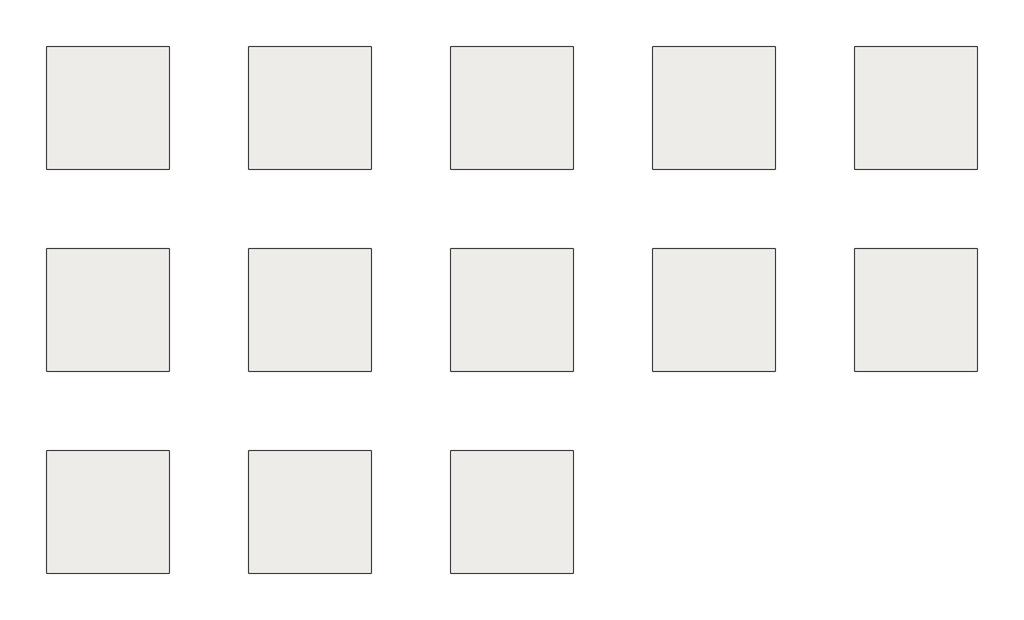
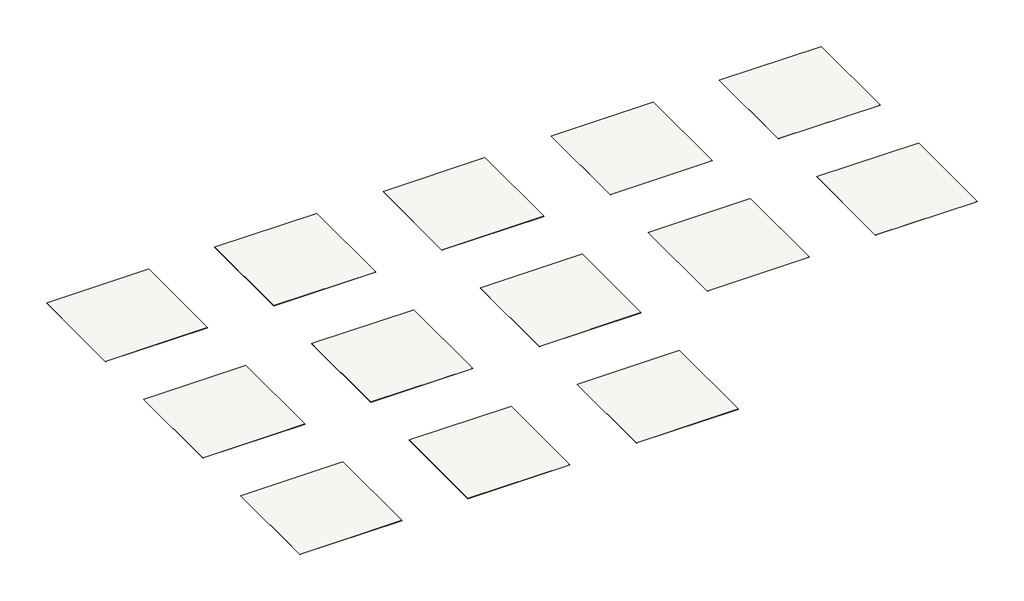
# One storey: 13 slabs.
"""IFC4 building model written with IfcOpenShell, lengths in millimetres."""

from ifc_helpers import new_model, si_unit, frame, origin, place, context, project, spatial, polyline, outline, extrude, element, save

model = new_model("IFC4")

# Units and contexts
model_context = context("Model", 3, world=origin())
ifc_project = project(units=[si_unit("LENGTHUNIT", "METRE", prefix="MILLI")], contexts=[model_context])

# Site, building, storey
site = spatial("IfcSite", under=ifc_project)
building = spatial("IfcBuilding", under=site)
storey = spatial("IfcBuildingStorey", under=building, Name="Tarkett Brasil - Ambienta Design", Elevation=0.0)

# Slabs
placement = place(None, origin())
element("IfcSlab", 1, ObjectType="Tarkett Brasil - Vinyl - Ambienta Design - Acero 24273619", at=placement, inside=storey, context=model_context, shape_type="SweptSolid", body=[
    extrude(outline(polyline([(-2685.8748009, 4089.6111976), (-2685.8748009, 2089.6111976), (-4685.8748009, 2089.6111976), (-4685.8748009, 4089.6111976), (-2685.8748009, 4089.6111976)])), frame((0.0, 0.0, -3.0), z_axis=(0.0, 0.0, 1.0), x_axis=(1.0, 0.0, 0.0)), (0.0, 0.0, 1.0), 3.0),
])
element("IfcSlab", 2, ObjectType="Tarkett Brasil - Vinyl - Ambienta Design - Tamara 24192731", at=placement, inside=storey, context=model_context, shape_type="SweptSolid", body=[
    extrude(outline(polyline([(614.1251991, 4089.6111976), (614.1251991, 2089.6111976), (-1385.8748009, 2089.6111976), (-1385.8748009, 4089.6111976), (614.1251991, 4089.6111976)])), frame((0.0, 0.0, -3.0), z_axis=(0.0, 0.0, 1.0), x_axis=(1.0, 0.0, 0.0)), (0.0, 0.0, 1.0), 3.0),
])
element("IfcSlab", 3, ObjectType="Tarkett Brasil - Vinyl - Ambienta Design - Amaranto 24192688", at=placement, inside=storey, context=model_context, shape_type="SweptSolid", body=[
    extrude(outline(polyline([(3914.1251991, 4089.6111976), (3914.1251991, 2089.6111976), (1914.1251991, 2089.6111976), (1914.1251991, 4089.6111976), (3914.1251991, 4089.6111976)])), frame((0.0, 0.0, -3.0), z_axis=(0.0, 0.0, 1.0), x_axis=(1.0, 0.0, 0.0)), (0.0, 0.0, 1.0), 3.0),
])
element("IfcSlab", 4, ObjectType="Tarkett Brasil - Vinyl - Ambienta Design - Andorra 24273612", at=placement, inside=storey, context=model_context, shape_type="SweptSolid", body=[
    extrude(outline(polyline([(7214.1251991, 4089.6111976), (7214.1251991, 2089.6111976), (5214.1251991, 2089.6111976), (5214.1251991, 4089.6111976), (7214.1251991, 4089.6111976)])), frame((0.0, 0.0, -3.0), z_axis=(0.0, 0.0, 1.0), x_axis=(1.0, 0.0, 0.0)), (0.0, 0.0, 1.0), 3.0),
])
element("IfcSlab", 5, ObjectType="Tarkett Brasil - Vinyl - Ambienta Design - Aragon 24273616", at=placement, inside=storey, context=model_context, shape_type="SweptSolid", body=[
    extrude(outline(polyline([(10514.1251991, 4089.6111976), (10514.1251991, 2089.6111976), (8514.1251991, 2089.6111976), (8514.1251991, 4089.6111976), (10514.1251991, 4089.6111976)])), frame((0.0, 0.0, -3.0), z_axis=(0.0, 0.0, 1.0), x_axis=(1.0, 0.0, 0.0)), (0.0, 0.0, 1.0), 3.0),
])
element("IfcSlab", 6, ObjectType="Tarkett Brasil - Vinyl - Ambienta Design - Brauna 24192685", at=placement, inside=storey, context=model_context, shape_type="SweptSolid", body=[
    extrude(outline(polyline([(-2685.8748009, 789.6111976), (-2685.8748009, -1210.3888024), (-4685.8748009, -1210.3888024), (-4685.8748009, 789.6111976), (-2685.8748009, 789.6111976)])), frame((0.0, 0.0, -3.0), z_axis=(0.0, 0.0, 1.0), x_axis=(1.0, 0.0, 0.0)), (0.0, 0.0, 1.0), 3.0),
])
element("IfcSlab", 7, ObjectType="Tarkett Brasil - Vinyl - Ambienta Design - Copaiba 24192693", at=placement, inside=storey, context=model_context, shape_type="SweptSolid", body=[
    extrude(outline(polyline([(614.1251991, 789.6111976), (614.1251991, -1210.3888024), (-1385.8748009, -1210.3888024), (-1385.8748009, 789.6111976), (614.1251991, 789.6111976)])), frame((0.0, 0.0, -3.0), z_axis=(0.0, 0.0, 1.0), x_axis=(1.0, 0.0, 0.0)), (0.0, 0.0, 1.0), 3.0),
])
element("IfcSlab", 8, ObjectType="Tarkett Brasil - Vinyl - Ambienta Design - Flamboyant 24192695", at=placement, inside=storey, context=model_context, shape_type="SweptSolid", body=[
    extrude(outline(polyline([(3914.1251991, 789.6111976), (3914.1251991, -1210.3888024), (1914.1251991, -1210.3888024), (1914.1251991, 789.6111976), (3914.1251991, 789.6111976)])), frame((0.0, 0.0, -3.0), z_axis=(0.0, 0.0, 1.0), x_axis=(1.0, 0.0, 0.0)), (0.0, 0.0, 1.0), 3.0),
])
element("IfcSlab", 9, ObjectType="Tarkett Brasil - Vinyl - Ambienta Design - Olmo 24192727", at=placement, inside=storey, context=model_context, shape_type="SweptSolid", body=[
    extrude(outline(polyline([(7214.1251991, 789.6111976), (7214.1251991, -1210.3888024), (5214.1251991, -1210.3888024), (5214.1251991, 789.6111976), (7214.1251991, 789.6111976)])), frame((0.0, 0.0, -3.0), z_axis=(0.0, 0.0, 1.0), x_axis=(1.0, 0.0, 0.0)), (0.0, 0.0, 1.0), 3.0),
])
element("IfcSlab", 10, ObjectType="Tarkett Brasil - Vinyl - Ambienta Design - Royalles 24273417", at=placement, inside=storey, context=model_context, shape_type="SweptSolid", body=[
    extrude(outline(polyline([(10514.1251991, 789.6111976), (10514.1251991, -1210.3888024), (8514.1251991, -1210.3888024), (8514.1251991, 789.6111976), (10514.1251991, 789.6111976)])), frame((0.0, 0.0, -3.0), z_axis=(0.0, 0.0, 1.0), x_axis=(1.0, 0.0, 0.0)), (0.0, 0.0, 1.0), 3.0),
])
element("IfcSlab", 11, ObjectType="Tarkett Brasil - Vinyl - Ambienta Design - Salvia 24192729", at=placement, inside=storey, context=model_context, shape_type="SweptSolid", body=[
    extrude(outline(polyline([(-2685.8748009, -2510.3888024), (-2685.8748009, -4510.3888024), (-4685.8748009, -4510.3888024), (-4685.8748009, -2510.3888024), (-2685.8748009, -2510.3888024)])), frame((0.0, 0.0, -3.0), z_axis=(0.0, 0.0, 1.0), x_axis=(1.0, 0.0, 0.0)), (0.0, 0.0, 1.0), 3.0),
])
element("IfcSlab", 12, ObjectType="Tarkett Brasil - Vinyl - Ambienta Design - Sandalo 24192730", at=placement, inside=storey, context=model_context, shape_type="SweptSolid", body=[
    extrude(outline(polyline([(614.1251991, -2510.3888024), (614.1251991, -4510.3888024), (-1385.8748009, -4510.3888024), (-1385.8748009, -2510.3888024), (614.1251991, -2510.3888024)])), frame((0.0, 0.0, -3.0), z_axis=(0.0, 0.0, 1.0), x_axis=(1.0, 0.0, 0.0)), (0.0, 0.0, 1.0), 3.0),
])
element("IfcSlab", 13, ObjectType="Tarkett Brasil - Vinyl - Ambienta Design - Venice 24273411", at=placement, inside=storey, context=model_context, shape_type="SweptSolid", body=[
    extrude(outline(polyline([(3914.1251991, -2510.3888024), (3914.1251991, -4510.3888024), (1914.1251991, -4510.3888024), (1914.1251991, -2510.3888024), (3914.1251991, -2510.3888024)])), frame((0.0, 0.0, -3.0), z_axis=(0.0, 0.0, 1.0), x_axis=(1.0, 0.0, 0.0)), (0.0, 0.0, 1.0), 3.0),
])

save(model, "model.ifc")
